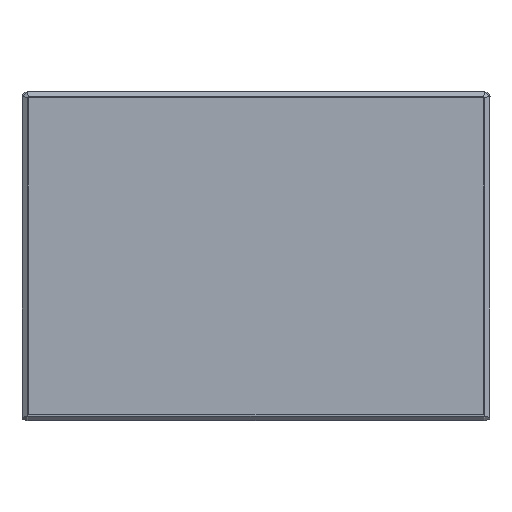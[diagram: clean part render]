
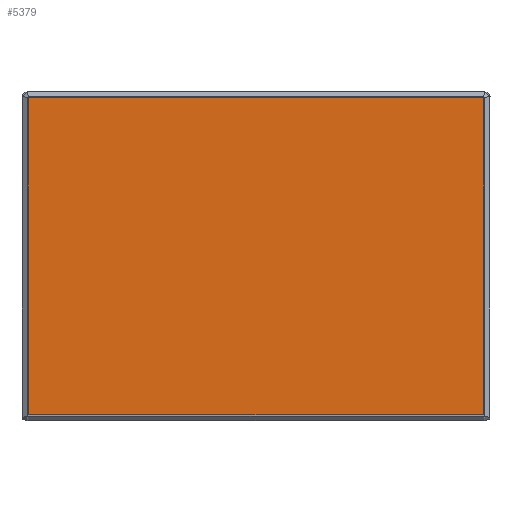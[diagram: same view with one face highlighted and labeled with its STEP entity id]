
A CAD part, front view. The second image highlights one B-rep face of the part: STEP entity #5379.
In plain terms, the highlighted planar face has unit normal (0, -1, 0).
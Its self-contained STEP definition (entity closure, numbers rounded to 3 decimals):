
#5379=ADVANCED_FACE('',(#7540),#41506,.T.);
#7540=FACE_OUTER_BOUND('',#9772,.T.);
#9772=EDGE_LOOP('',(#21784,#21785,#21786,#21787,#21788,#21789,#21790,#21791));
#21784=ORIENTED_EDGE('',*,*,#30863,.T.);
#21785=ORIENTED_EDGE('',*,*,#30867,.T.);
#21786=ORIENTED_EDGE('',*,*,#30870,.T.);
#21787=ORIENTED_EDGE('',*,*,#30873,.T.);
#21788=ORIENTED_EDGE('',*,*,#30876,.T.);
#21789=ORIENTED_EDGE('',*,*,#30879,.T.);
#21790=ORIENTED_EDGE('',*,*,#30882,.T.);
#21791=ORIENTED_EDGE('',*,*,#30884,.T.);
#30863=EDGE_CURVE('',#40003,#40002,#50727,.T.);
#30867=EDGE_CURVE('',#40002,#40005,#31913,.T.);
#30870=EDGE_CURVE('',#40005,#40007,#50731,.T.);
#30873=EDGE_CURVE('',#40007,#40009,#31916,.T.);
#30876=EDGE_CURVE('',#40009,#40011,#50734,.T.);
#30879=EDGE_CURVE('',#40011,#40013,#31919,.T.);
#30882=EDGE_CURVE('',#40013,#40015,#50737,.T.);
#30884=EDGE_CURVE('',#40015,#40003,#31921,.T.);
#31913=(
BOUNDED_CURVE()
B_SPLINE_CURVE(2,(#111874,#111875,#111876),.UNSPECIFIED.,.F.,.F.)
B_SPLINE_CURVE_WITH_KNOTS((3,3),(-714.73,-714.33),
 .UNSPECIFIED.)
CURVE()
GEOMETRIC_REPRESENTATION_ITEM()
RATIONAL_B_SPLINE_CURVE((1.,0.707,1.))
REPRESENTATION_ITEM('')
);
#31916=(
BOUNDED_CURVE()
B_SPLINE_CURVE(2,(#111888,#111889,#111890),.UNSPECIFIED.,.F.,.F.)
B_SPLINE_CURVE_WITH_KNOTS((3,3),(-449.83,-449.43),
 .UNSPECIFIED.)
CURVE()
GEOMETRIC_REPRESENTATION_ITEM()
RATIONAL_B_SPLINE_CURVE((1.,0.707,1.))
REPRESENTATION_ITEM('')
);
#31919=(
BOUNDED_CURVE()
B_SPLINE_CURVE(2,(#111902,#111903,#111904),.UNSPECIFIED.,.F.,.F.)
B_SPLINE_CURVE_WITH_KNOTS((3,3),(-265.3,-264.9),.UNSPECIFIED.)
CURVE()
GEOMETRIC_REPRESENTATION_ITEM()
RATIONAL_B_SPLINE_CURVE((1.,0.707,1.))
REPRESENTATION_ITEM('')
);
#31921=(
BOUNDED_CURVE()
B_SPLINE_CURVE(2,(#111914,#111915,#111916),.UNSPECIFIED.,.F.,.F.)
B_SPLINE_CURVE_WITH_KNOTS((3,3),(-0.4,0.),.UNSPECIFIED.)
CURVE()
GEOMETRIC_REPRESENTATION_ITEM()
RATIONAL_B_SPLINE_CURVE((1.,0.707,1.))
REPRESENTATION_ITEM('')
);
#40002=VERTEX_POINT('',#111847);
#40003=VERTEX_POINT('',#111848);
#40005=VERTEX_POINT('',#111850);
#40007=VERTEX_POINT('',#111852);
#40009=VERTEX_POINT('',#111854);
#40011=VERTEX_POINT('',#111856);
#40013=VERTEX_POINT('',#111858);
#40015=VERTEX_POINT('',#111860);
#41506=PLANE('',#52248);
#50727=B_SPLINE_CURVE_WITH_KNOTS('',1,(#111865,#111866),.UNSPECIFIED.,.F.,
 .F.,(2,2),(-898.86,-714.73),.UNSPECIFIED.);
#50731=B_SPLINE_CURVE_WITH_KNOTS('',1,(#111881,#111882),.UNSPECIFIED.,.F.,
 .F.,(2,2),(-714.33,-449.83),.UNSPECIFIED.);
#50734=B_SPLINE_CURVE_WITH_KNOTS('',1,(#111895,#111896),.UNSPECIFIED.,.F.,
 .F.,(2,2),(-449.43,-265.3),.UNSPECIFIED.);
#50737=B_SPLINE_CURVE_WITH_KNOTS('',1,(#111909,#111910),.UNSPECIFIED.,.F.,
 .F.,(2,2),(-264.9,-0.4),.UNSPECIFIED.);
#52248=AXIS2_PLACEMENT_3D('',#111844,#53748,$);
#53748=DIRECTION('',(0.,-1.,0.));
#111844=CARTESIAN_POINT('',(303.467,0.404,19.004));
#111847=CARTESIAN_POINT('',(5.454,0.404,-188.392));
#111848=CARTESIAN_POINT('',(5.454,0.404,-4.262));
#111850=CARTESIAN_POINT('',(5.654,0.404,-188.592));
#111852=CARTESIAN_POINT('',(270.154,0.404,-188.592));
#111854=CARTESIAN_POINT('',(270.354,0.404,-188.392));
#111856=CARTESIAN_POINT('',(270.354,0.404,-4.262));
#111858=CARTESIAN_POINT('',(270.154,0.404,-4.062));
#111860=CARTESIAN_POINT('',(5.654,0.404,-4.062));
#111865=CARTESIAN_POINT('',(5.454,0.404,-4.262));
#111866=CARTESIAN_POINT('',(5.454,0.404,-188.392));
#111874=CARTESIAN_POINT('',(5.454,0.404,-188.392));
#111875=CARTESIAN_POINT('',(5.454,0.404,-188.592));
#111876=CARTESIAN_POINT('',(5.654,0.404,-188.592));
#111881=CARTESIAN_POINT('',(5.654,0.404,-188.592));
#111882=CARTESIAN_POINT('',(270.154,0.404,-188.592));
#111888=CARTESIAN_POINT('',(270.154,0.404,-188.592));
#111889=CARTESIAN_POINT('',(270.354,0.404,-188.592));
#111890=CARTESIAN_POINT('',(270.354,0.404,-188.392));
#111895=CARTESIAN_POINT('',(270.354,0.404,-188.392));
#111896=CARTESIAN_POINT('',(270.354,0.404,-4.262));
#111902=CARTESIAN_POINT('',(270.354,0.404,-4.262));
#111903=CARTESIAN_POINT('',(270.354,0.404,-4.062));
#111904=CARTESIAN_POINT('',(270.154,0.404,-4.062));
#111909=CARTESIAN_POINT('',(270.154,0.404,-4.062));
#111910=CARTESIAN_POINT('',(5.654,0.404,-4.062));
#111914=CARTESIAN_POINT('',(5.654,0.404,-4.062));
#111915=CARTESIAN_POINT('',(5.454,0.404,-4.062));
#111916=CARTESIAN_POINT('',(5.454,0.404,-4.262));
